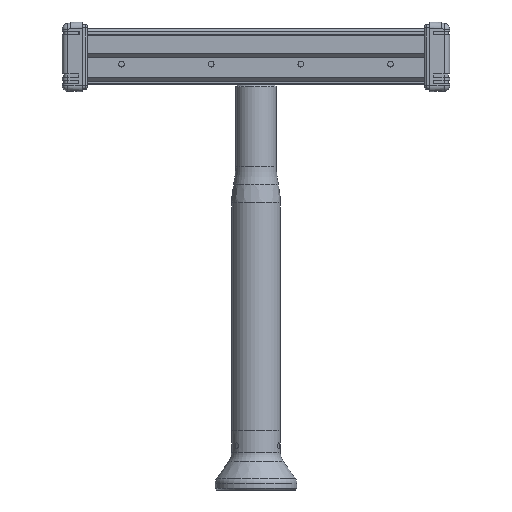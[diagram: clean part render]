
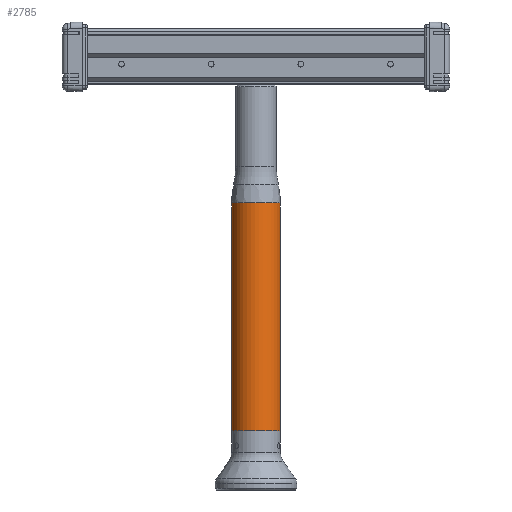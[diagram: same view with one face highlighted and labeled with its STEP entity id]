
A CAD part, front view. The second image highlights one B-rep face of the part: STEP entity #2785.
In plain terms, the highlighted cylindrical face has radius 14.9 mm (diameter 29.8 mm), a full revolution.
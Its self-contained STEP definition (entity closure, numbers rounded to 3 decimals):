
#2785=ADVANCED_FACE('',(#3218,#3219),#3136,.T.);
#3136=CYLINDRICAL_SURFACE('',#8779,14.9);
#3218=FACE_BOUND('',#3386,.T.);
#3219=FACE_BOUND('',#3387,.T.);
#3386=EDGE_LOOP('',(#3859));
#3387=EDGE_LOOP('',(#3860));
#3859=ORIENTED_EDGE('',*,*,#7363,.T.);
#3860=ORIENTED_EDGE('',*,*,#7364,.T.);
#6345=VERTEX_POINT('',#11159);
#6346=VERTEX_POINT('',#11161);
#7363=EDGE_CURVE('',#6345,#6345,#8606,.T.);
#7364=EDGE_CURVE('',#6346,#6346,#8607,.T.);
#8606=CIRCLE('',#8777,14.9);
#8607=CIRCLE('',#8778,14.9);
#8777=AXIS2_PLACEMENT_3D('',#11158,#9367,#9368);
#8778=AXIS2_PLACEMENT_3D('',#11160,#9369,#9370);
#8779=AXIS2_PLACEMENT_3D('',#11162,#9371,#9372);
#9367=DIRECTION('',(0.,0.,1.));
#9368=DIRECTION('',(-0.132,0.991,0.));
#9369=DIRECTION('',(0.,0.,-1.));
#9370=DIRECTION('',(-0.132,0.991,0.));
#9371=DIRECTION('',(0.,0.,-1.));
#9372=DIRECTION('',(-0.132,0.991,0.));
#11158=CARTESIAN_POINT('',(78.,41.05,-225.95));
#11159=CARTESIAN_POINT('',(76.028,55.819,-225.95));
#11160=CARTESIAN_POINT('',(78.,41.05,-86.95));
#11161=CARTESIAN_POINT('',(76.028,55.819,-86.95));
#11162=CARTESIAN_POINT('',(78.,41.05,-14.95));
